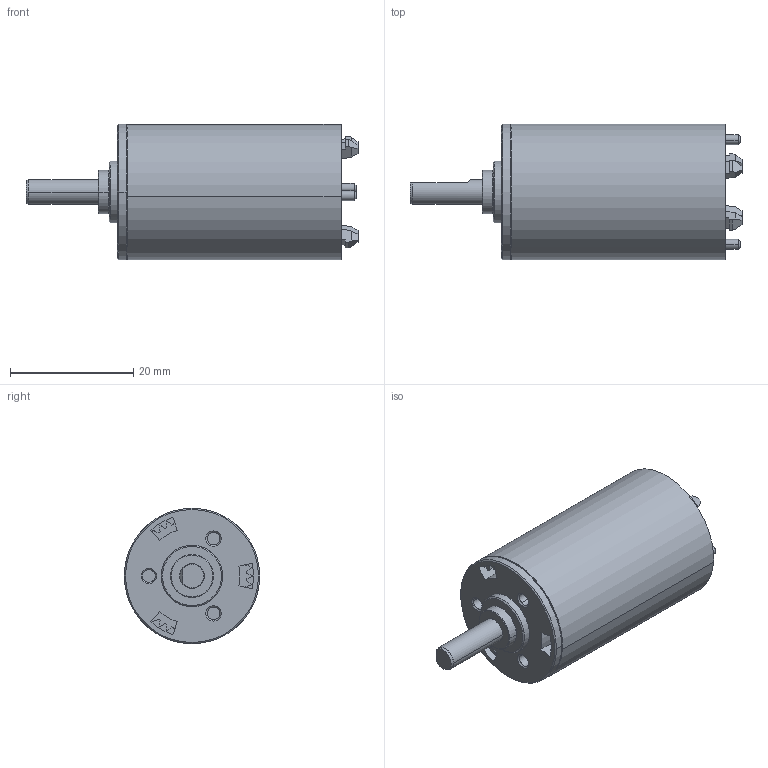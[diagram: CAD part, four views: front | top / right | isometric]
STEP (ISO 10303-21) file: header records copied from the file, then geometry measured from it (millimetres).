
FILE_DESCRIPTION((''),'2;1');
FILE_NAME('GP22L','2016-10-04T',('mmagvisi'),(''),'CREO PARAMETRIC BY PTC INC, 2016050','CREO PARAMETRIC BY PTC INC, 2016050','');
FILE_SCHEMA(('CONFIG_CONTROL_DESIGN'));
Length unit declared in the file: millimetre
Products named in the file (1): GP22L
Bounding box: 53.9 x 22 x 22 mm (x, y, z)
Volume: 13614.5 mm3; surface area: 4590.2 mm2
Topology: 1 solids, 34 shells, 645 faces, 1643 edges, 1082 vertices
Faces by surface type: plane 247, bspline 176, cylinder 136, cone 85, torus 1
Entity records: 27133 total; most frequent: CARTESIAN_POINT 7566, ORIENTED_EDGE 3286, DIRECTION 2532, PRESENTATION_STYLE_ASSIGNMENT 1644, STYLED_ITEM 1644, CURVE_STYLE 1643, EDGE_CURVE 1643, VERTEX_POINT 1082
